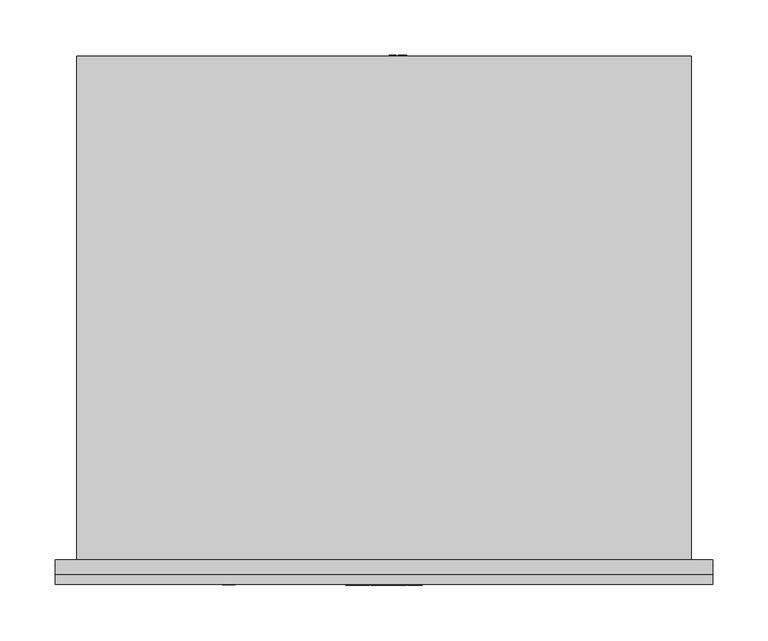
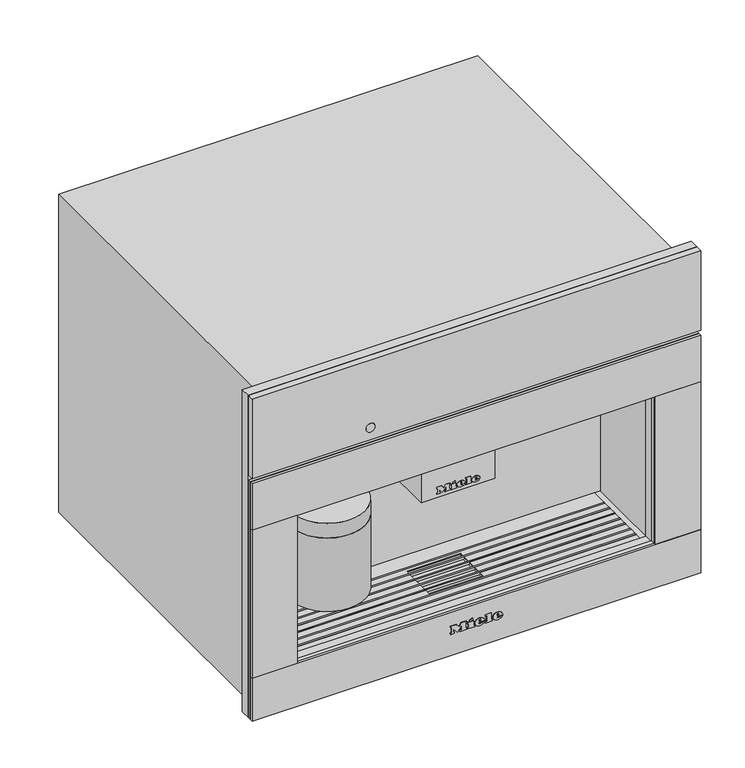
"""IFC4 building model written with IfcOpenShell, lengths in millimetres: proxy geometry, 11163900_EU1_CVA7440_OBSW : 29744020_EU1_11163900_CVA7440_OBSW."""

from ifc_helpers import new_model, si_unit, point, frame, frame_2d, origin, place, context, project, spatial, polyline, circle_curve, ellipse_curve, trimmed, segment, composite_curve, outline, extrude, faceted_brep, source, transform, mapped, element, save
from ifc_brep_helpers import plane_surface, cylinder_surface, revolved_surface, extruded_surface, advanced_brep


def specialty_equipment_a78401e0(model_context):
    return source(origin(), model_context, "Body", "SolidModel", [
        extrude(outline(composite_curve([segment(trimmed(circle_curve(frame_2d((-14.0, 36.5)), 5.0), [point((-9.0, 36.5))], [point((-19.0, 36.5))], False, "CARTESIAN"), True, "CONTINUOUS"), segment(trimmed(circle_curve(frame_2d((-14.0, 36.5)), 5.0), [point((-19.0, 36.5))], [point((-9.0, 36.5))], False, "CARTESIAN"), True, "CONTINUOUS")], self_intersect=False)), frame((0.0, 0.0, 193.0), z_axis=(0.0, 0.0, 1.0), x_axis=(1.0, 0.0, 0.0)), (0.0, 0.0, 1.0), 5.0),
        extrude(outline(composite_curve([segment(trimmed(circle_curve(frame_2d((14.0, 36.5)), 5.0), [point((19.0, 36.5))], [point((9.0, 36.5))], False, "CARTESIAN"), True, "CONTINUOUS"), segment(trimmed(circle_curve(frame_2d((14.0, 36.5)), 5.0), [point((9.0, 36.5))], [point((19.0, 36.5))], False, "CARTESIAN"), True, "CONTINUOUS")], self_intersect=False)), frame((0.0, 0.0, 193.0), z_axis=(0.0, 0.0, 1.0), x_axis=(1.0, 0.0, 0.0)), (0.0, 0.0, 1.0), 5.0),
        extrude(outline(composite_curve([segment(trimmed(circle_curve(frame_2d((-156.5, 49.5)), 50.0), [point((-106.5, 49.5))], [point((-206.5, 49.5))], False, "CARTESIAN"), True, "CONTINUOUS"), segment(trimmed(circle_curve(frame_2d((-156.5, 49.5)), 50.0), [point((-206.5, 49.5))], [point((-106.5, 49.5))], False, "CARTESIAN"), True, "CONTINUOUS")], self_intersect=False)), frame((0.0, 0.0, 100.0), z_axis=(0.0, 0.0, 1.0), x_axis=(1.0, 0.0, 0.0)), (0.0, 0.0, 1.0), 103.0),
        extrude(outline(polyline([(-49.0, 95.0), (49.0, 95.0), (49.0, 20.0), (-49.0, 20.0), (-49.0, 95.0)])), frame((0.0, 0.0, 198.0), z_axis=(0.0, 0.0, 1.0), x_axis=(1.0, 0.0, 0.0)), (0.0, 0.0, 1.0), 75.0),
        extrude(outline(polyline([(455.5, 297.5), (455.5, -297.5), (4.0, -297.5), (4.0, 297.5), (455.5, 297.5)]), holes=[polyline([(273.0, 237.5), (63.0, 237.5), (63.0, -237.5), (273.0, -237.5), (273.0, 237.5)])]), frame((0.0, -13.0, 0.0), z_axis=(0.0, 1.0, 0.0), x_axis=(0.0, 0.0, 1.0)), (0.0, 0.0, 1.0), 13.0),
        extrude(outline(polyline([(97.0, 11.140398), (107.045631, 11.140398), (107.045631, 9.8846941), (98.2557039, 9.8846941), (98.2557039, 4.8618786), (97.0, 4.8618786), (97.0, 11.140398)])), frame((0.0, 456.0, 0.0), z_axis=(0.0, 1.0, 0.0), x_axis=(0.0, 0.0, 1.0)), (0.0, 0.0, 1.0), 1.0),
        extrude(outline(polyline([(97.0, 20.4012141), (107.045631, 20.4012141), (107.045631, 13.1809168), (105.7899271, 13.1809168), (105.7899271, 19.1455102), (102.8076304, 19.1455102), (102.8076304, 13.4948427), (101.5519266, 13.4948427), (101.5519266, 19.1455102), (98.2557039, 19.1455102), (98.2557039, 13.0239538), (97.0, 13.0239538), (97.0, 20.4012141)])), frame((0.0, 456.0, 0.0), z_axis=(0.0, 1.0, 0.0), x_axis=(0.0, 0.0, 1.0)), (0.0, 0.0, 1.0), 1.0),
        advanced_brep(
        [(55.0, 425.5, 102.0), (55.0, 410.5, 102.0), (5.5239538, 410.5, 102.0), (20.5239538, 425.5, 102.0), (20.5239538, 456.0, 102.0), (5.5239538, 456.0, 102.0)],
        [
            (0, 1, circle_curve(frame((55.0, 418.0, 102.0), z_axis=(-1.0, 0.0, 0.0), x_axis=(0.0, -1.0, 0.0)), 7.5)),
            (1, 2),
            (2, 3, ellipse_curve(frame((13.0239538, 418.0, 102.0), z_axis=(0.7071067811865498, -0.7071067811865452, 0.0), x_axis=(0.7071067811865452, 0.7071067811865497, 0.0)), 10.6066017, 7.5)),
            (3, 0),
            (2, 3, ellipse_curve(frame((13.0239538, 418.0, 102.0), z_axis=(-0.7071067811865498, 0.7071067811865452, 0.0), x_axis=(-0.7071067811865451, -0.7071067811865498, 0.0)), 10.6066017, 7.5)),
            (3, 4),
            (4, 5, circle_curve(frame((13.0239538, 456.0, 102.0), z_axis=(0.0, -1.0, 0.0), x_axis=(-1.0, 0.0, 0.0)), 7.5)),
            (5, 2),
            (0, 1, circle_curve(frame((55.0, 418.0, 102.0), z_axis=(1.0, 0.0, 0.0), x_axis=(0.0, -1.0, 0.0)), 7.5)),
            (4, 5, circle_curve(frame((13.0239538, 456.0, 102.0), z_axis=(0.0, 1.0, 0.0), x_axis=(-1.0, 0.0, 0.0)), 7.5)),
        ],
        [
            cylinder_surface(frame((55.0, 418.0, 102.0), z_axis=(1.0, 0.0, 0.0), x_axis=(0.0, -1.0, 0.0)), 7.5),
            cylinder_surface(frame((13.0239538, 418.0, 102.0), z_axis=(0.0, -1.0, 0.0), x_axis=(-1.0, 0.0, 0.0)), 7.5),
            plane_surface(frame((55.0, 418.0, 102.0), z_axis=(1.0, 0.0, 0.0), x_axis=(0.0, 0.0, 1.0))),
            plane_surface(frame((13.0239538, 456.0, 102.0), z_axis=(0.0, 1.0, 0.0), x_axis=(0.0, 0.0, 1.0))),
        ],
        [
            (0, [[1, 2, 3, 4]]),
            (1, [[5, 6, 7, 8]]),
            (2, [[9, -1]]),
            (0, [[-9, -4, -5, -2]]),
            (3, [[10, -7]]),
            (1, [[-3, -8, -10, -6]]),
        ],
    ),
        advanced_brep(
        [(-106.5, 49.5, 203.0), (-206.5, 49.5, 203.0), (-156.5, 49.5, 203.0), (-106.5, 49.5, 223.5), (-206.5, 49.5, 223.5), (-110.0, 49.5, 252.0), (-203.0, 49.5, 252.0), (-110.0, 49.5, 273.0), (-203.0, 49.5, 273.0), (-156.5, 49.5, 273.0)],
        [
            (0, 1, circle_curve(frame((-156.5, 49.5, 203.0), z_axis=(0.0, 0.0, -1.0), x_axis=(-1.0, 0.0, 0.0)), 50.0)),
            (1, 2),
            (2, 0),
            (1, 0, circle_curve(frame((-156.5, 49.5, 203.0), z_axis=(0.0, 0.0, -1.0), x_axis=(-1.0, 0.0, 0.0)), 50.0)),
            (3, 4, circle_curve(frame((-156.5, 49.5, 223.5), z_axis=(0.0, 0.0, -1.0), x_axis=(-1.0, 0.0, 0.0)), 50.0)),
            (4, 1),
            (0, 3),
            (4, 3, circle_curve(frame((-156.5, 49.5, 223.5), z_axis=(0.0, 0.0, -1.0), x_axis=(-1.0, 0.0, 0.0)), 50.0)),
            (5, 6, circle_curve(frame((-156.5, 49.5, 252.0), z_axis=(0.0, 0.0, -1.0), x_axis=(-1.0, 0.0, 0.0)), 46.5)),
            (6, 4, circle_curve(frame((-206.7961166, 49.5, 238.0012775), z_axis=(0.0, 1.0, 0.0), x_axis=(-1.0, 0.0, 0.0)), 14.5043005)),
            (3, 5, circle_curve(frame((-106.2038834, 49.5, 238.0012775), z_axis=(0.0, 1.0, 0.0), x_axis=(1.0, 0.0, 0.0)), 14.5043005)),
            (6, 5, circle_curve(frame((-156.5, 49.5, 252.0), z_axis=(0.0, 0.0, -1.0), x_axis=(-1.0, 0.0, 0.0)), 46.5)),
            (7, 8, circle_curve(frame((-156.5, 49.5, 273.0), z_axis=(0.0, 0.0, -1.0), x_axis=(-1.0, 0.0, 0.0)), 46.5)),
            (8, 6),
            (5, 7),
            (8, 7, circle_curve(frame((-156.5, 49.5, 273.0), z_axis=(0.0, 0.0, -1.0), x_axis=(-1.0, 0.0, 0.0)), 46.5)),
            (9, 8),
            (7, 9),
        ],
        [
            plane_surface(frame((-156.5, 49.5, 203.0), z_axis=(0.0, 0.0, -1.0), x_axis=(-1.0, 0.0, 0.0))),
            cylinder_surface(frame((-156.5, 49.5, 388.7361736), z_axis=(0.0, 0.0, 1.0), x_axis=(-1.0, 0.0, 0.0)), 50.0),
            revolved_surface(trimmed(ellipse_curve(frame((-206.7961166, 49.5, 238.0012775), z_axis=(0.0, -1.0, 0.0), x_axis=(-1.0, 0.0, 0.0)), 14.5043005, 14.5043005), [point((-206.5, 49.5, 223.5))], [point((-203.0, 49.5, 252.0))], True, "CARTESIAN"), (-156.5, 49.5, 388.7361736), (0.0, 0.0, 1.0)),
            cylinder_surface(frame((-156.5, 49.5, 388.7361736), z_axis=(0.0, 0.0, 1.0), x_axis=(-1.0, 0.0, 0.0)), 46.5),
            plane_surface(frame((-156.5, 49.5, 273.0), z_axis=(0.0, 0.0, 1.0), x_axis=(-1.0, 0.0, 0.0))),
        ],
        [
            (0, [[1, 2, 3]]),
            (0, [[4, -3, -2]]),
            (1, [[5, 6, -1, 7]]),
            (1, [[8, -7, -4, -6]]),
            (2, [[9, 10, -5, 11]]),
            (2, [[12, -11, -8, -10]]),
            (3, [[13, 14, -9, 15]]),
            (3, [[16, -15, -12, -14]]),
            (4, [[17, -13, 18]]),
            (4, [[-18, -16, -17]]),
        ],
    ),
        faceted_brep([(229.5, 0.0, 62.0), (-229.5, 0.0, 62.0), (-229.5, 8.0, 62.0), (229.5, 8.0, 62.0), (-229.5, 104.5, 62.0), (229.5, 104.5, 62.0), (229.5, 82.0925571, 62.0), (-229.5, 82.0925571, 62.0), (36.0, 76.0, 62.0), (-36.0, 76.0, 62.0), (-36.0, 70.0550731, 62.0), (-229.5, 70.0550731, 62.0), (-229.5, 80.0925571, 62.0), (229.5, 80.0925571, 62.0), (229.5, 70.0550731, 62.0), (36.0, 70.0550731, 62.0), (-36.0, 25.0, 62.0), (36.0, 25.0, 62.0), (36.0, 31.9426212, 62.0), (229.5, 31.9426212, 62.0), (229.5, 21.9776522, 62.0), (-229.5, 21.9776522, 62.0), (-229.5, 31.9426212, 62.0), (-36.0, 31.9426212, 62.0), (229.5, 19.9776522, 62.0), (229.5, 10.0, 62.0), (-229.5, 10.0, 62.0), (-229.5, 19.9776522, 62.0), (229.5, 43.9801052, 62.0), (229.5, 33.9426212, 62.0), (36.0, 33.9426212, 62.0), (36.0, 43.9801052, 62.0), (229.5, 56.0175891, 62.0), (229.5, 45.9801052, 62.0), (36.0, 45.9801052, 62.0), (36.0, 56.0175891, 62.0), (229.5, 68.0550731, 62.0), (229.5, 58.0175891, 62.0), (36.0, 58.0175891, 62.0), (36.0, 68.0550731, 62.0), (-229.5, 33.9426212, 62.0), (-229.5, 43.9801052, 62.0), (-36.0, 43.9801052, 62.0), (-36.0, 33.9426212, 62.0), (-229.5, 45.9801052, 62.0), (-229.5, 56.0175891, 62.0), (-36.0, 56.0175891, 62.0), (-36.0, 45.9801052, 62.0), (-229.5, 58.0175891, 62.0), (-229.5, 68.0550731, 62.0), (-36.0, 68.0550731, 62.0), (-36.0, 58.0175891, 62.0), (229.5, 104.5, 63.0), (-229.5, 104.5, 63.0), (-229.5, 82.0925571, 63.0), (229.5, 82.0925571, 63.0), (-229.5, 0.0, 63.0), (229.5, 0.0, 63.0), (229.5, 8.0, 63.0), (-229.5, 8.0, 63.0), (-36.0, 76.0, 63.0), (36.0, 76.0, 63.0), (36.0, 70.0550731, 63.0), (229.5, 70.0550731, 63.0), (229.5, 80.0925571, 63.0), (-229.5, 80.0925571, 63.0), (-229.5, 70.0550731, 63.0), (-36.0, 70.0550731, 63.0), (36.0, 25.0, 63.0), (-36.0, 25.0, 63.0), (-36.0, 31.9426212, 63.0), (-229.5, 31.9426212, 63.0), (-229.5, 21.9776522, 63.0), (229.5, 21.9776522, 63.0), (229.5, 31.9426212, 63.0), (36.0, 31.9426212, 63.0), (-229.5, 19.9776522, 63.0), (-229.5, 10.0, 63.0), (229.5, 10.0, 63.0), (229.5, 19.9776522, 63.0), (-229.5, 43.9801052, 63.0), (-229.5, 33.9426212, 63.0), (-36.0, 33.9426212, 63.0), (-36.0, 43.9801052, 63.0), (-229.5, 56.0175891, 63.0), (-229.5, 45.9801052, 63.0), (-36.0, 45.9801052, 63.0), (-36.0, 56.0175891, 63.0), (-229.5, 68.0550731, 63.0), (-229.5, 58.0175891, 63.0), (-36.0, 58.0175891, 63.0), (-36.0, 68.0550731, 63.0), (229.5, 33.9426212, 63.0), (229.5, 43.9801052, 63.0), (36.0, 43.9801052, 63.0), (36.0, 33.9426212, 63.0), (229.5, 45.9801052, 63.0), (229.5, 56.0175891, 63.0), (36.0, 56.0175891, 63.0), (36.0, 45.9801052, 63.0), (229.5, 58.0175891, 63.0), (229.5, 68.0550731, 63.0), (36.0, 68.0550731, 63.0), (36.0, 58.0175891, 63.0), (-229.5, 82.0925571, 60.0), (-229.5, 80.0925571, 60.0), (-229.5, 70.0550731, 60.0), (-229.5, 68.0550731, 60.0), (-229.5, 58.0175891, 60.0), (-229.5, 56.0175891, 60.0), (-229.5, 45.9801052, 60.0), (-229.5, 43.9801052, 60.0), (-229.5, 33.9426212, 60.0), (-229.5, 31.9426212, 60.0), (-229.5, 21.9776522, 60.0), (-229.5, 19.9776522, 60.0), (-229.5, 10.0, 60.0), (-229.5, 8.0, 60.0), (-229.5, 8.0, 63.5), (-229.5, 10.0, 63.5), (-229.5, 19.9776522, 63.5), (-229.5, 21.9776522, 63.5), (-229.5, 31.9426212, 63.5), (-229.5, 33.9426212, 63.5), (-229.5, 43.9801052, 63.5), (-229.5, 45.9801052, 63.5), (-229.5, 56.0175891, 63.5), (-229.5, 58.0175891, 63.5), (-229.5, 68.0550731, 63.5), (-229.5, 70.0550731, 63.5), (-229.5, 80.0925571, 63.5), (-229.5, 82.0925571, 63.5), (229.5, 82.0925571, 63.5), (229.5, 80.0925571, 63.5), (229.5, 70.0550731, 63.5), (229.5, 68.0550731, 63.5), (229.5, 58.0175891, 63.5), (229.5, 56.0175891, 63.5), (229.5, 45.9801052, 63.5), (229.5, 43.9801052, 63.5), (229.5, 33.9426212, 63.5), (229.5, 31.9426212, 63.5), (229.5, 21.9776522, 63.5), (229.5, 19.9776522, 63.5), (229.5, 10.0, 63.5), (229.5, 8.0, 63.5), (229.5, 8.0, 60.0), (229.5, 10.0, 60.0), (229.5, 19.9776522, 60.0), (229.5, 21.9776522, 60.0), (229.5, 31.9426212, 60.0), (229.5, 33.9426212, 60.0), (229.5, 43.9801052, 60.0), (229.5, 45.9801052, 60.0), (229.5, 56.0175891, 60.0), (229.5, 58.0175891, 60.0), (229.5, 68.0550731, 60.0), (229.5, 70.0550731, 60.0), (229.5, 80.0925571, 60.0), (229.5, 82.0925571, 60.0)], [[[0, 1, 2, 3]], [[4, 5, 6, 7]], [[8, 9, 10, 11, 12, 13, 14, 15]], [[16, 17, 18, 19, 20, 21, 22, 23]], [[24, 25, 26, 27]], [[28, 29, 30, 31]], [[32, 33, 34, 35]], [[36, 37, 38, 39]], [[40, 41, 42, 43]], [[44, 45, 46, 47]], [[48, 49, 50, 51]], [[52, 53, 54, 55]], [[56, 57, 58, 59]], [[60, 61, 62, 63, 64, 65, 66, 67]], [[68, 69, 70, 71, 72, 73, 74, 75]], [[76, 77, 78, 79]], [[80, 81, 82, 83]], [[84, 85, 86, 87]], [[88, 89, 90, 91]], [[92, 93, 94, 95]], [[96, 97, 98, 99]], [[100, 101, 102, 103]], [[5, 4, 53, 52]], [[53, 4, 7, 104, 105, 12, 11, 106, 107, 49, 48, 108, 109, 45, 44, 110, 111, 41, 40, 112, 113, 22, 21, 114, 115, 27, 26, 116, 117, 2, 1, 56, 59, 118, 119, 77, 76, 120, 121, 72, 71, 122, 123, 81, 80, 124, 125, 85, 84, 126, 127, 89, 88, 128, 129, 66, 65, 130, 131, 54]], [[1, 0, 57, 56]], [[5, 52, 55, 132, 133, 64, 63, 134, 135, 101, 100, 136, 137, 97, 96, 138, 139, 93, 92, 140, 141, 74, 73, 142, 143, 79, 78, 144, 145, 58, 57, 0, 3, 146, 147, 25, 24, 148, 149, 20, 19, 150, 151, 29, 28, 152, 153, 33, 32, 154, 155, 37, 36, 156, 157, 14, 13, 158, 159, 6]], [[8, 61, 60, 9]], [[43, 42, 83, 82]], [[47, 46, 87, 86]], [[51, 50, 91, 90]], [[9, 60, 67, 10]], [[69, 16, 23, 70]], [[16, 69, 68, 17]], [[31, 30, 95, 94]], [[35, 34, 99, 98]], [[39, 38, 103, 102]], [[61, 8, 15, 62]], [[17, 68, 75, 18]], [[147, 146, 117, 116]], [[149, 148, 115, 114]], [[151, 150, 113, 112]], [[153, 152, 111, 110]], [[155, 154, 109, 108]], [[157, 156, 107, 106]], [[159, 158, 105, 104]], [[144, 119, 118, 145]], [[142, 121, 120, 143]], [[140, 123, 122, 141]], [[138, 125, 124, 139]], [[136, 127, 126, 137]], [[134, 129, 128, 135]], [[132, 131, 130, 133]], [[147, 116, 26, 25]], [[119, 144, 78, 77]], [[117, 146, 3, 2]], [[145, 118, 59, 58]], [[149, 114, 21, 20]], [[121, 142, 73, 72]], [[115, 148, 24, 27]], [[143, 120, 76, 79]], [[151, 112, 40, 43, 82, 81, 123, 140, 92, 95, 30, 29]], [[113, 150, 19, 18, 75, 74, 141, 122, 71, 70, 23, 22]], [[153, 110, 44, 47, 86, 85, 125, 138, 96, 99, 34, 33]], [[111, 152, 28, 31, 94, 93, 139, 124, 80, 83, 42, 41]], [[155, 108, 48, 51, 90, 89, 127, 136, 100, 103, 38, 37]], [[109, 154, 32, 35, 98, 97, 137, 126, 84, 87, 46, 45]], [[157, 106, 11, 10, 67, 66, 129, 134, 63, 62, 15, 14]], [[107, 156, 36, 39, 102, 101, 135, 128, 88, 91, 50, 49]], [[159, 104, 7, 6]], [[131, 132, 55, 54]], [[105, 158, 13, 12]], [[133, 130, 65, 64]]]),
        faceted_brep([(-278.0, 456.0, 0.0), (-278.0, 0.0, 0.0), (-278.0, 0.0, 446.0), (-278.0, 456.0, 446.0), (278.0, 456.0, 0.0), (278.0, 456.0, 446.0), (278.0, 0.0, 446.0), (278.0, 0.0, 0.0), (55.0, 456.0, 133.0), (-22.0, 456.0, 133.0), (-22.0, 456.0, 89.0), (35.0, 456.0, 66.0), (55.0, 456.0, 66.0), (237.5, 0.0, 273.0), (237.5, 0.0, 63.0), (229.5, 0.0, 63.0), (229.5, 0.0, 62.0), (-229.5, 0.0, 62.0), (-229.5, 0.0, 63.0), (-237.5, 0.0, 63.0), (-237.5, 0.0, 273.0), (237.5, 104.5, 273.0), (-237.5, 104.5, 273.0), (-237.5, 104.5, 63.0), (-229.5, 104.5, 63.0), (-229.5, 104.5, 62.0), (229.5, 104.5, 62.0), (229.5, 104.5, 63.0), (237.5, 104.5, 63.0), (-36.0, 76.0, 62.0), (36.0, 76.0, 62.0), (36.0, 25.0, 62.0), (-36.0, 25.0, 62.0), (36.0, 76.0, 58.0), (-36.0, 76.0, 58.0), (-36.0, 25.0, 58.0), (36.0, 25.0, 58.0), (-22.0, 400.0, 133.0), (55.0, 400.0, 133.0), (55.0, 400.0, 66.0), (35.0, 400.0, 66.0), (-22.0, 400.0, 89.0)], [[[0, 1, 2, 3]], [[4, 5, 6, 7]], [[0, 3, 5, 4], [8, 9, 10, 11, 12]], [[3, 2, 6, 5]], [[2, 1, 7, 6], [13, 14, 15, 16, 17, 18, 19, 20]], [[1, 0, 4, 7]], [[21, 22, 23, 24, 25, 26, 27, 28]], [[21, 28, 14, 13]], [[14, 28, 27, 15]], [[23, 19, 18, 24]], [[23, 22, 20, 19]], [[22, 21, 13, 20]], [[26, 25, 17, 16], [29, 30, 31, 32]], [[17, 25, 24, 18]], [[26, 16, 15, 27]], [[33, 34, 35, 36]], [[34, 33, 30, 29]], [[35, 34, 29, 32]], [[36, 35, 32, 31]], [[33, 36, 31, 30]], [[37, 38, 39, 40, 41]], [[38, 37, 9, 8]], [[39, 38, 8, 12]], [[40, 39, 12, 11]], [[41, 40, 11, 10]], [[37, 41, 10, 9]]]),
        advanced_brep(
        [(27.088, -23.0, 36.7018), (27.088, -23.0, 37.8532), (34.7146, -23.0, 37.8532), (21.445, -23.0, 37.8532), (24.58, -23.0, 34.0), (34.5208, -23.0, 36.7018), (31.078, -23.0, 36.7018), (28.3648, -23.0, 35.425), (27.088, -23.0, 39.3124), (27.088, -23.0, 40.555), (29.0374, -23.0, 40.555), (29.0374, -23.0, 39.3124), (27.088, -22.0, 36.7018), (28.3648, -22.0, 35.425), (31.078, -22.0, 36.7018), (34.5208, -22.0, 36.7018), (24.58, -22.0, 34.0), (21.445, -22.0, 37.8532), (34.7146, -22.0, 37.8532), (27.088, -22.0, 37.8532), (27.088, -22.0, 39.3124), (29.0374, -22.0, 39.3124), (29.0374, -22.0, 40.555), (27.088, -22.0, 40.555)],
        [
            (0, 1),
            (1, 2),
            (2, 3, ellipse_curve(frame((28.0798, -23.0, 37.8532), z_axis=(0.0, -1.0, 0.0), x_axis=(-1.0, 0.0, 0.0)), 6.6348, 5.4834)),
            (3, 4, circle_curve(frame((25.8568622, -23.0, 38.2408), z_axis=(0.0, -1.0, 0.0), x_axis=(0.0, 0.0, -1.0)), 4.4288556)),
            (4, 5, circle_curve(frame((27.9469808, -23.0, 41.2504), z_axis=(0.0, -1.0, 0.0), x_axis=(0.0, 0.0, -1.0)), 7.9940516)),
            (5, 6),
            (6, 7, circle_curve(frame((28.9220588, -23.0, 37.762), z_axis=(0.0, 1.0, 0.0), x_axis=(0.0, 0.0, -1.0)), 2.4025208)),
            (7, 0, circle_curve(frame((28.3648, -23.0, 36.7018), z_axis=(0.0, 1.0, 0.0), x_axis=(0.0, 0.0, -1.0)), 1.2768)),
            (8, 9),
            (9, 10, circle_curve(frame((28.0627, -23.0, 40.555), z_axis=(0.0, 1.0, 0.0), x_axis=(0.0, 0.0, -1.0)), 0.9747)),
            (10, 11),
            (11, 8),
            (12, 13, circle_curve(frame((28.3648, -22.0, 36.7018), z_axis=(0.0, -1.0, 0.0), x_axis=(0.0, 0.0, -1.0)), 1.2768)),
            (13, 14, circle_curve(frame((28.9220588, -22.0, 37.762), z_axis=(0.0, -1.0, 0.0), x_axis=(0.0, 0.0, -1.0)), 2.4025208)),
            (14, 15),
            (15, 16, circle_curve(frame((27.9469808, -22.0, 41.2504), z_axis=(0.0, 1.0, 0.0), x_axis=(0.0, 0.0, -1.0)), 7.9940516)),
            (16, 17, circle_curve(frame((25.8568622, -22.0, 38.2408), z_axis=(0.0, 1.0, 0.0), x_axis=(0.0, 0.0, -1.0)), 4.4288556)),
            (17, 18, ellipse_curve(frame((28.0798, -22.0, 37.8532), z_axis=(0.0, 1.0, 0.0), x_axis=(-1.0, 0.0, 0.0)), 6.6348, 5.4834)),
            (18, 19),
            (19, 12),
            (20, 21),
            (21, 22),
            (22, 23, circle_curve(frame((28.0627, -22.0, 40.555), z_axis=(0.0, -1.0, 0.0), x_axis=(0.0, 0.0, -1.0)), 0.9747)),
            (23, 20),
            (0, 12),
            (19, 1),
            (18, 2),
            (5, 15),
            (14, 6),
            (17, 3),
            (13, 7),
            (16, 4),
            (8, 20),
            (23, 9),
            (22, 10),
            (21, 11),
        ],
        [
            plane_surface(frame((27.088, -23.0, 37.8532), z_axis=(0.0, -1.0, 0.0), x_axis=(0.0, 0.0, 1.0))),
            plane_surface(frame((27.088, -22.0, 37.8532), z_axis=(0.0, 1.0, 0.0), x_axis=(0.0, 0.0, -1.0))),
            plane_surface(frame((27.088, -23.0, 36.7018), z_axis=(1.0, 0.0, 0.0), x_axis=(0.0, 1.0, 0.0))),
            plane_surface(frame((27.088, -23.0, 37.8532), z_axis=(0.0, 0.0, -1.0), x_axis=(0.0, 1.0, 0.0))),
            plane_surface(frame((34.5208, -23.0, 36.7018), z_axis=(0.0, 0.0, 1.0), x_axis=(0.0, 1.0, 0.0))),
            extruded_surface(trimmed(ellipse_curve(frame((28.0798, -21.0, 37.8532), z_axis=(0.0, -1.0, 0.0), x_axis=(-1.0, 0.0, 0.0)), 6.6348, 5.4834), [point((34.7146, -21.0, 37.8532))], [point((21.445, -21.0, 37.8532))], True, "CARTESIAN"), (0.0, -1.0, 0.0), 1.0),
            revolved_surface(polyline([(28.9220588, -22.0, 35.3594792), (28.9220588, -23.0, 35.3594792)]), (28.9220588, -22.0, 37.762), (0.0, 1.0, 0.0)),
            revolved_surface(polyline([(28.3648, -22.0, 35.425), (28.3648, -23.0, 35.425)]), (28.3648, -22.0, 36.7018), (0.0, 1.0, 0.0)),
            cylinder_surface(frame((25.8568622, -22.0, 38.2408), z_axis=(0.0, -1.0, 0.0), x_axis=(0.0, 0.0, -1.0)), 4.4288556),
            cylinder_surface(frame((27.9469808, -22.0, 41.2504), z_axis=(0.0, -1.0, 0.0), x_axis=(0.0, 0.0, -1.0)), 7.9940516),
            plane_surface(frame((27.088, -23.0, 39.3124), z_axis=(1.0, 0.0, 0.0), x_axis=(0.0, 1.0, 0.0))),
            revolved_surface(polyline([(28.0627, -22.0, 39.5803), (28.0627, -23.0, 39.5803)]), (28.0627, -22.0, 40.555), (0.0, 1.0, 0.0)),
            plane_surface(frame((29.0374, -23.0, 40.555), z_axis=(-1.0, 0.0, 0.0), x_axis=(0.0, 1.0, 0.0))),
            plane_surface(frame((29.0374, -23.0, 39.3124), z_axis=(0.0, 0.0, 1.0), x_axis=(0.0, 1.0, 0.0))),
        ],
        [
            (0, [[1, 2, 3, 4, 5, 6, 7, 8], [9, 10, 11, 12]]),
            (1, [[13, 14, 15, 16, 17, 18, 19, 20], [21, 22, 23, 24]]),
            (2, [[-1, 25, -20, 26]]),
            (3, [[-2, -26, -19, 27]]),
            (4, [[-6, 28, -15, 29]]),
            (5, [[-3, -27, -18, 30]]),
            (6, [[-7, -29, -14, 31]]),
            (7, [[-8, -31, -13, -25]]),
            (8, [[-4, -30, -17, 32]]),
            (9, [[-5, -32, -16, -28]]),
            (10, [[-9, 33, -24, 34]]),
            (11, [[-10, -34, -23, 35]]),
            (12, [[-11, -35, -22, 36]]),
            (13, [[-12, -36, -21, -33]]),
        ],
    ),
        advanced_brep(
        [(3.2962, -23.0, 36.7018), (3.2962, -23.0, 37.8532), (10.9228, -23.0, 37.8532), (-2.3468, -23.0, 37.8532), (0.7882, -23.0, 34.0), (10.729, -23.0, 36.7018), (7.2862, -23.0, 36.7018), (4.573, -23.0, 35.425), (3.2962, -23.0, 39.3124), (3.2962, -23.0, 40.555), (5.2456, -23.0, 40.555), (5.2456, -23.0, 39.3124), (3.2962, -22.0, 36.7018), (4.573, -22.0, 35.425), (7.2862, -22.0, 36.7018), (10.729, -22.0, 36.7018), (0.7882, -22.0, 34.0), (-2.3468, -22.0, 37.8532), (10.9228, -22.0, 37.8532), (3.2962, -22.0, 37.8532), (3.2962, -22.0, 39.3124), (5.2456, -22.0, 39.3124), (5.2456, -22.0, 40.555), (3.2962, -22.0, 40.555)],
        [
            (0, 1),
            (1, 2),
            (2, 3, ellipse_curve(frame((4.288, -23.0, 37.8532), z_axis=(0.0, -1.0, 0.0), x_axis=(-1.0, 0.0, 0.0)), 6.6348, 5.4834)),
            (3, 4, circle_curve(frame((2.0650622, -23.0, 38.2408), z_axis=(0.0, -1.0, 0.0), x_axis=(0.0, 0.0, -1.0)), 4.4288556)),
            (4, 5, circle_curve(frame((4.1551808, -23.0, 41.2504), z_axis=(0.0, -1.0, 0.0), x_axis=(0.0, 0.0, -1.0)), 7.9940516)),
            (5, 6),
            (6, 7, circle_curve(frame((5.1302588, -23.0, 37.762), z_axis=(0.0, 1.0, 0.0), x_axis=(0.0, 0.0, -1.0)), 2.4025208)),
            (7, 0, circle_curve(frame((4.573, -23.0, 36.7018), z_axis=(0.0, 1.0, 0.0), x_axis=(0.0, 0.0, -1.0)), 1.2768)),
            (8, 9),
            (9, 10, circle_curve(frame((4.2709, -23.0, 40.555), z_axis=(0.0, 1.0, 0.0), x_axis=(0.0, 0.0, -1.0)), 0.9747)),
            (10, 11),
            (11, 8),
            (12, 13, circle_curve(frame((4.573, -22.0, 36.7018), z_axis=(0.0, -1.0, 0.0), x_axis=(0.0, 0.0, -1.0)), 1.2768)),
            (13, 14, circle_curve(frame((5.1302588, -22.0, 37.762), z_axis=(0.0, -1.0, 0.0), x_axis=(0.0, 0.0, -1.0)), 2.4025208)),
            (14, 15),
            (15, 16, circle_curve(frame((4.1551808, -22.0, 41.2504), z_axis=(0.0, 1.0, 0.0), x_axis=(0.0, 0.0, -1.0)), 7.9940516)),
            (16, 17, circle_curve(frame((2.0650622, -22.0, 38.2408), z_axis=(0.0, 1.0, 0.0), x_axis=(0.0, 0.0, -1.0)), 4.4288556)),
            (17, 18, ellipse_curve(frame((4.288, -22.0, 37.8532), z_axis=(0.0, 1.0, 0.0), x_axis=(-1.0, 0.0, 0.0)), 6.6348, 5.4834)),
            (18, 19),
            (19, 12),
            (20, 21),
            (21, 22),
            (22, 23, circle_curve(frame((4.2709, -22.0, 40.555), z_axis=(0.0, -1.0, 0.0), x_axis=(0.0, 0.0, -1.0)), 0.9747)),
            (23, 20),
            (0, 12),
            (19, 1),
            (18, 2),
            (5, 15),
            (14, 6),
            (17, 3),
            (13, 7),
            (16, 4),
            (8, 20),
            (23, 9),
            (22, 10),
            (21, 11),
        ],
        [
            plane_surface(frame((3.2962, -23.0, 37.8532), z_axis=(0.0, -1.0, 0.0), x_axis=(0.0, 0.0, 1.0))),
            plane_surface(frame((3.2962, -22.0, 37.8532), z_axis=(0.0, 1.0, 0.0), x_axis=(0.0, 0.0, -1.0))),
            plane_surface(frame((3.2962, -23.0, 36.7018), z_axis=(1.0, 0.0, 0.0), x_axis=(0.0, 1.0, 0.0))),
            plane_surface(frame((3.2962, -23.0, 37.8532), z_axis=(0.0, 0.0, -1.0), x_axis=(0.0, 1.0, 0.0))),
            plane_surface(frame((10.729, -23.0, 36.7018), z_axis=(0.0, 0.0, 1.0), x_axis=(0.0, 1.0, 0.0))),
            extruded_surface(trimmed(ellipse_curve(frame((4.288, -21.0, 37.8532), z_axis=(0.0, -1.0, 0.0), x_axis=(-1.0, 0.0, 0.0)), 6.6348, 5.4834), [point((10.9228, -21.0, 37.8532))], [point((-2.3468, -21.0, 37.8532))], True, "CARTESIAN"), (0.0, -1.0, 0.0), 1.0),
            revolved_surface(polyline([(5.1302588, -22.0, 35.3594792), (5.1302588, -23.0, 35.3594792)]), (5.1302588, -22.0, 37.762), (0.0, 1.0, 0.0)),
            revolved_surface(polyline([(4.573, -22.0, 35.425), (4.573, -23.0, 35.425)]), (4.573, -22.0, 36.7018), (0.0, 1.0, 0.0)),
            cylinder_surface(frame((2.0650622, -22.0, 38.2408), z_axis=(0.0, -1.0, 0.0), x_axis=(0.0, 0.0, -1.0)), 4.4288556),
            cylinder_surface(frame((4.1551808, -22.0, 41.2504), z_axis=(0.0, -1.0, 0.0), x_axis=(0.0, 0.0, -1.0)), 7.9940516),
            plane_surface(frame((3.2962, -23.0, 39.3124), z_axis=(1.0, 0.0, 0.0), x_axis=(0.0, 1.0, 0.0))),
            revolved_surface(polyline([(4.2709, -22.0, 39.5803), (4.2709, -23.0, 39.5803)]), (4.2709, -22.0, 40.555), (0.0, 1.0, 0.0)),
            plane_surface(frame((5.2456, -23.0, 40.555), z_axis=(-1.0, 0.0, 0.0), x_axis=(0.0, 1.0, 0.0))),
            plane_surface(frame((5.2456, -23.0, 39.3124), z_axis=(0.0, 0.0, 1.0), x_axis=(0.0, 1.0, 0.0))),
        ],
        [
            (0, [[1, 2, 3, 4, 5, 6, 7, 8], [9, 10, 11, 12]]),
            (1, [[13, 14, 15, 16, 17, 18, 19, 20], [21, 22, 23, 24]]),
            (2, [[-1, 25, -20, 26]]),
            (3, [[-2, -26, -19, 27]]),
            (4, [[-6, 28, -15, 29]]),
            (5, [[-3, -27, -18, 30]]),
            (6, [[-7, -29, -14, 31]]),
            (7, [[-8, -31, -13, -25]]),
            (8, [[-4, -30, -17, 32]]),
            (9, [[-5, -32, -16, -28]]),
            (10, [[-9, 33, -24, 34]]),
            (11, [[-10, -34, -23, 35]]),
            (12, [[-11, -35, -22, 36]]),
            (13, [[-12, -36, -21, -33]]),
        ],
    ),
        extrude(outline(polyline([(44.7274, -9.164), (42.8806, -8.2976), (44.6818, -4.433), (46.5286, -5.288), (44.7274, -9.164)])), frame((0.0, -23.0, 0.0), z_axis=(0.0, 1.0, 0.0), x_axis=(0.0, 0.0, 1.0)), (0.0, 0.0, 1.0), 1.0),
        extrude(outline(polyline([(42.6298, -11.9798), (40.5892, -11.9798), (40.5892, -10.6232), (35.9152, -10.6232), (35.9152, -11.9798), (34.0, -11.9798), (34.0, -2.9852), (35.9152, -2.9852), (35.9152, -4.3076), (42.6298, -4.3076), (42.6298, -11.9798)])), frame((0.0, -23.0, 0.0), z_axis=(0.0, 1.0, 0.0), x_axis=(0.0, 0.0, 1.0)), (0.0, 0.0, 1.0), 1.0),
        extrude(outline(polyline([(43.5418, 11.5612), (43.5418, 12.9292), (35.9152, 12.9292), (35.9152, 11.5612), (34.0, 11.5612), (34.0, 20.8066), (35.9152, 20.8066), (35.9152, 19.4044), (45.4, 19.4044), (45.4, 11.5612), (43.5418, 11.5612)])), frame((0.0, -23.0, 0.0), z_axis=(0.0, 1.0, 0.0), x_axis=(0.0, 0.0, 1.0)), (0.0, 0.0, 1.0), 1.0),
        extrude(outline(polyline([(43.5418, -34.7), (43.5418, -33.3206), (35.9152, -33.3206), (35.9152, -34.7), (34.0, -34.7), (34.0, -29.684), (35.9152, -29.684), (35.9152, -31.052), (40.7429247, -31.052), (34.0, -25.9562), (40.9402223, -20.8376), (35.9152, -20.8376), (35.9152, -22.2398), (34.0, -22.2398), (34.0, -13.1426), (35.9152, -13.1426), (35.9152, -14.5904), (43.5418, -14.5904), (43.5418, -13.1426), (45.4, -13.1426), (45.4, -20.0852), (41.125, -23.414), (45.4, -26.7542), (45.4, -34.7), (43.5418, -34.7)])), frame((0.0, -23.0, 0.0), z_axis=(0.0, 1.0, 0.0), x_axis=(0.0, 0.0, 1.0)), (0.0, 0.0, 1.0), 1.0),
        advanced_brep(
        [(22.348, 19.0, 205.5278), (22.348, 19.0, 206.4772), (28.6366, 19.0, 206.4772), (17.695, 19.0, 206.4772), (20.28, 19.0, 203.3), (28.4768, 19.0, 205.5278), (25.638, 19.0, 205.5278), (23.4008, 19.0, 204.475), (22.348, 19.0, 207.6804), (22.348, 19.0, 208.705), (23.9554, 19.0, 208.705), (23.9554, 19.0, 207.6804), (22.348, 20.0, 205.5278), (23.4008, 20.0, 204.475), (25.638, 20.0, 205.5278), (28.4768, 20.0, 205.5278), (20.28, 20.0, 203.3), (17.695, 20.0, 206.4772), (28.6366, 20.0, 206.4772), (22.348, 20.0, 206.4772), (22.348, 20.0, 207.6804), (23.9554, 20.0, 207.6804), (23.9554, 20.0, 208.705), (22.348, 20.0, 208.705)],
        [
            (0, 1),
            (1, 2),
            (2, 3, ellipse_curve(frame((23.1658, 19.0, 206.4772), z_axis=(0.0, -1.0, 0.0), x_axis=(-1.0, 0.0, 0.0)), 5.4708, 4.5214)),
            (3, 4, circle_curve(frame((21.3328513, 19.0, 206.7968), z_axis=(0.0, -1.0, 0.0), x_axis=(0.0, 0.0, -1.0)), 3.6518634)),
            (4, 5, circle_curve(frame((23.0562825, 19.0, 209.2784), z_axis=(0.0, -1.0, 0.0), x_axis=(0.0, 0.0, -1.0)), 6.5915864)),
            (5, 6),
            (6, 7, circle_curve(frame((23.8602941, 19.0, 206.402), z_axis=(0.0, 1.0, 0.0), x_axis=(0.0, 0.0, -1.0)), 1.981026)),
            (7, 0, circle_curve(frame((23.4008, 19.0, 205.5278), z_axis=(0.0, 1.0, 0.0), x_axis=(0.0, 0.0, -1.0)), 1.0528)),
            (8, 9),
            (9, 10, circle_curve(frame((23.1517, 19.0, 208.705), z_axis=(0.0, 1.0, 0.0), x_axis=(0.0, 0.0, -1.0)), 0.8037)),
            (10, 11),
            (11, 8),
            (12, 13, circle_curve(frame((23.4008, 20.0, 205.5278), z_axis=(0.0, -1.0, 0.0), x_axis=(0.0, 0.0, -1.0)), 1.0528)),
            (13, 14, circle_curve(frame((23.8602941, 20.0, 206.402), z_axis=(0.0, -1.0, 0.0), x_axis=(0.0, 0.0, -1.0)), 1.981026)),
            (14, 15),
            (15, 16, circle_curve(frame((23.0562825, 20.0, 209.2784), z_axis=(0.0, 1.0, 0.0), x_axis=(0.0, 0.0, -1.0)), 6.5915864)),
            (16, 17, circle_curve(frame((21.3328513, 20.0, 206.7968), z_axis=(0.0, 1.0, 0.0), x_axis=(0.0, 0.0, -1.0)), 3.6518634)),
            (17, 18, ellipse_curve(frame((23.1658, 20.0, 206.4772), z_axis=(0.0, 1.0, 0.0), x_axis=(-1.0, 0.0, 0.0)), 5.4708, 4.5214)),
            (18, 19),
            (19, 12),
            (20, 21),
            (21, 22),
            (22, 23, circle_curve(frame((23.1517, 20.0, 208.705), z_axis=(0.0, -1.0, 0.0), x_axis=(0.0, 0.0, -1.0)), 0.8037)),
            (23, 20),
            (0, 12),
            (19, 1),
            (18, 2),
            (5, 15),
            (14, 6),
            (17, 3),
            (13, 7),
            (16, 4),
            (8, 20),
            (23, 9),
            (22, 10),
            (21, 11),
        ],
        [
            plane_surface(frame((22.348, 19.0, 206.4772), z_axis=(0.0, -1.0, 0.0), x_axis=(0.0, 0.0, 1.0))),
            plane_surface(frame((22.348, 20.0, 206.4772), z_axis=(0.0, 1.0, 0.0), x_axis=(0.0, 0.0, -1.0))),
            plane_surface(frame((22.348, 19.0, 205.5278), z_axis=(1.0, 0.0, 0.0), x_axis=(0.0, 1.0, 0.0))),
            plane_surface(frame((22.348, 19.0, 206.4772), z_axis=(0.0, 0.0, -1.0), x_axis=(0.0, 1.0, 0.0))),
            plane_surface(frame((28.4768, 19.0, 205.5278), z_axis=(0.0, 0.0, 1.0), x_axis=(0.0, 1.0, 0.0))),
            extruded_surface(trimmed(ellipse_curve(frame((23.1658, 21.0, 206.4772), z_axis=(0.0, -1.0, 0.0), x_axis=(-1.0, 0.0, 0.0)), 5.4708, 4.5214), [point((28.6366, 21.0, 206.4772))], [point((17.695, 21.0, 206.4772))], True, "CARTESIAN"), (0.0, -1.0, 0.0), 1.0),
            revolved_surface(polyline([(23.8602941, 20.0, 204.420974), (23.8602941, 19.0, 204.420974)]), (23.8602941, 20.0, 206.402), (0.0, 1.0, 0.0)),
            revolved_surface(polyline([(23.4008, 20.0, 204.47500000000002), (23.4008, 19.0, 204.47500000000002)]), (23.4008, 20.0, 205.5278), (0.0, 1.0, 0.0)),
            cylinder_surface(frame((21.3328513, 20.0, 206.7968), z_axis=(0.0, -1.0, 0.0), x_axis=(0.0, 0.0, -1.0)), 3.6518634),
            cylinder_surface(frame((23.0562825, 20.0, 209.2784), z_axis=(0.0, -1.0, 0.0), x_axis=(0.0, 0.0, -1.0)), 6.5915864),
            plane_surface(frame((22.348, 19.0, 207.6804), z_axis=(1.0, 0.0, 0.0), x_axis=(0.0, 1.0, 0.0))),
            revolved_surface(polyline([(23.1517, 20.0, 207.90130000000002), (23.1517, 19.0, 207.90130000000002)]), (23.1517, 20.0, 208.705), (0.0, 1.0, 0.0)),
            plane_surface(frame((23.9554, 19.0, 208.705), z_axis=(-1.0, 0.0, 0.0), x_axis=(0.0, 1.0, 0.0))),
            plane_surface(frame((23.9554, 19.0, 207.6804), z_axis=(0.0, 0.0, 1.0), x_axis=(0.0, 1.0, 0.0))),
        ],
        [
            (0, [[1, 2, 3, 4, 5, 6, 7, 8], [9, 10, 11, 12]]),
            (1, [[13, 14, 15, 16, 17, 18, 19, 20], [21, 22, 23, 24]]),
            (2, [[-1, 25, -20, 26]]),
            (3, [[-2, -26, -19, 27]]),
            (4, [[-6, 28, -15, 29]]),
            (5, [[-3, -27, -18, 30]]),
            (6, [[-7, -29, -14, 31]]),
            (7, [[-8, -31, -13, -25]]),
            (8, [[-4, -30, -17, 32]]),
            (9, [[-5, -32, -16, -28]]),
            (10, [[-9, 33, -24, 34]]),
            (11, [[-10, -34, -23, 35]]),
            (12, [[-11, -35, -22, 36]]),
            (13, [[-12, -36, -21, -33]]),
        ],
    ),
        advanced_brep(
        [(2.7302, 19.0, 205.5278), (2.7302, 19.0, 206.4772), (9.0188, 19.0, 206.4772), (-1.9228, 19.0, 206.4772), (0.6622, 19.0, 203.3), (8.859, 19.0, 205.5278), (6.0202, 19.0, 205.5278), (3.783, 19.0, 204.475), (2.7302, 19.0, 207.6804), (2.7302, 19.0, 208.705), (4.3376, 19.0, 208.705), (4.3376, 19.0, 207.6804), (2.7302, 20.0, 205.5278), (3.783, 20.0, 204.475), (6.0202, 20.0, 205.5278), (8.859, 20.0, 205.5278), (0.6622, 20.0, 203.3), (-1.9228, 20.0, 206.4772), (9.0188, 20.0, 206.4772), (2.7302, 20.0, 206.4772), (2.7302, 20.0, 207.6804), (4.3376, 20.0, 207.6804), (4.3376, 20.0, 208.705), (2.7302, 20.0, 208.705)],
        [
            (0, 1),
            (1, 2),
            (2, 3, ellipse_curve(frame((3.548, 19.0, 206.4772), z_axis=(0.0, -1.0, 0.0), x_axis=(-1.0, 0.0, 0.0)), 5.4708, 4.5214)),
            (3, 4, circle_curve(frame((1.7150513, 19.0, 206.7968), z_axis=(0.0, -1.0, 0.0), x_axis=(0.0, 0.0, -1.0)), 3.6518634)),
            (4, 5, circle_curve(frame((3.4384825, 19.0, 209.2784), z_axis=(0.0, -1.0, 0.0), x_axis=(0.0, 0.0, -1.0)), 6.5915864)),
            (5, 6),
            (6, 7, circle_curve(frame((4.2424941, 19.0, 206.402), z_axis=(0.0, 1.0, 0.0), x_axis=(0.0, 0.0, -1.0)), 1.981026)),
            (7, 0, circle_curve(frame((3.783, 19.0, 205.5278), z_axis=(0.0, 1.0, 0.0), x_axis=(0.0, 0.0, -1.0)), 1.0528)),
            (8, 9),
            (9, 10, circle_curve(frame((3.5339, 19.0, 208.705), z_axis=(0.0, 1.0, 0.0), x_axis=(0.0, 0.0, -1.0)), 0.8037)),
            (10, 11),
            (11, 8),
            (12, 13, circle_curve(frame((3.783, 20.0, 205.5278), z_axis=(0.0, -1.0, 0.0), x_axis=(0.0, 0.0, -1.0)), 1.0528)),
            (13, 14, circle_curve(frame((4.2424941, 20.0, 206.402), z_axis=(0.0, -1.0, 0.0), x_axis=(0.0, 0.0, -1.0)), 1.981026)),
            (14, 15),
            (15, 16, circle_curve(frame((3.4384825, 20.0, 209.2784), z_axis=(0.0, 1.0, 0.0), x_axis=(0.0, 0.0, -1.0)), 6.5915864)),
            (16, 17, circle_curve(frame((1.7150513, 20.0, 206.7968), z_axis=(0.0, 1.0, 0.0), x_axis=(0.0, 0.0, -1.0)), 3.6518634)),
            (17, 18, ellipse_curve(frame((3.548, 20.0, 206.4772), z_axis=(0.0, 1.0, 0.0), x_axis=(-1.0, 0.0, 0.0)), 5.4708, 4.5214)),
            (18, 19),
            (19, 12),
            (20, 21),
            (21, 22),
            (22, 23, circle_curve(frame((3.5339, 20.0, 208.705), z_axis=(0.0, -1.0, 0.0), x_axis=(0.0, 0.0, -1.0)), 0.8037)),
            (23, 20),
            (0, 12),
            (19, 1),
            (18, 2),
            (5, 15),
            (14, 6),
            (17, 3),
            (13, 7),
            (16, 4),
            (8, 20),
            (23, 9),
            (22, 10),
            (21, 11),
        ],
        [
            plane_surface(frame((2.7302, 19.0, 206.4772), z_axis=(0.0, -1.0, 0.0), x_axis=(0.0, 0.0, 1.0))),
            plane_surface(frame((2.7302, 20.0, 206.4772), z_axis=(0.0, 1.0, 0.0), x_axis=(0.0, 0.0, -1.0))),
            plane_surface(frame((2.7302, 19.0, 205.5278), z_axis=(1.0, 0.0, 0.0), x_axis=(0.0, 1.0, 0.0))),
            plane_surface(frame((2.7302, 19.0, 206.4772), z_axis=(0.0, 0.0, -1.0), x_axis=(0.0, 1.0, 0.0))),
            plane_surface(frame((8.859, 19.0, 205.5278), z_axis=(0.0, 0.0, 1.0), x_axis=(0.0, 1.0, 0.0))),
            extruded_surface(trimmed(ellipse_curve(frame((3.548, 21.0, 206.4772), z_axis=(0.0, -1.0, 0.0), x_axis=(-1.0, 0.0, 0.0)), 5.4708, 4.5214), [point((9.0188, 21.0, 206.4772))], [point((-1.9228, 21.0, 206.4772))], True, "CARTESIAN"), (0.0, -1.0, 0.0), 1.0),
            revolved_surface(polyline([(4.2424941, 20.0, 204.420974), (4.2424941, 19.0, 204.420974)]), (4.2424941, 20.0, 206.402), (0.0, 1.0, 0.0)),
            revolved_surface(polyline([(3.783, 20.0, 204.47500000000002), (3.783, 19.0, 204.47500000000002)]), (3.783, 20.0, 205.5278), (0.0, 1.0, 0.0)),
            cylinder_surface(frame((1.7150513, 20.0, 206.7968), z_axis=(0.0, -1.0, 0.0), x_axis=(0.0, 0.0, -1.0)), 3.6518634),
            cylinder_surface(frame((3.4384825, 20.0, 209.2784), z_axis=(0.0, -1.0, 0.0), x_axis=(0.0, 0.0, -1.0)), 6.5915864),
            plane_surface(frame((2.7302, 19.0, 207.6804), z_axis=(1.0, 0.0, 0.0), x_axis=(0.0, 1.0, 0.0))),
            revolved_surface(polyline([(3.5339, 20.0, 207.90130000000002), (3.5339, 19.0, 207.90130000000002)]), (3.5339, 20.0, 208.705), (0.0, 1.0, 0.0)),
            plane_surface(frame((4.3376, 19.0, 208.705), z_axis=(-1.0, 0.0, 0.0), x_axis=(0.0, 1.0, 0.0))),
            plane_surface(frame((4.3376, 19.0, 207.6804), z_axis=(0.0, 0.0, 1.0), x_axis=(0.0, 1.0, 0.0))),
        ],
        [
            (0, [[1, 2, 3, 4, 5, 6, 7, 8], [9, 10, 11, 12]]),
            (1, [[13, 14, 15, 16, 17, 18, 19, 20], [21, 22, 23, 24]]),
            (2, [[-1, 25, -20, 26]]),
            (3, [[-2, -26, -19, 27]]),
            (4, [[-6, 28, -15, 29]]),
            (5, [[-3, -27, -18, 30]]),
            (6, [[-7, -29, -14, 31]]),
            (7, [[-8, -31, -13, -25]]),
            (8, [[-4, -30, -17, 32]]),
            (9, [[-5, -32, -16, -28]]),
            (10, [[-9, 33, -24, 34]]),
            (11, [[-10, -34, -23, 35]]),
            (12, [[-11, -35, -22, 36]]),
            (13, [[-12, -36, -21, -33]]),
        ],
    ),
        extrude(outline(polyline([(212.1454, -7.544), (210.6226, -6.8296), (212.1078, -3.643), (213.6306, -4.348), (212.1454, -7.544)])), frame((0.0, 19.0, 0.0), z_axis=(0.0, 1.0, 0.0), x_axis=(0.0, 0.0, 1.0)), (0.0, 0.0, 1.0), 1.0),
        extrude(outline(polyline([(210.4158, -9.8658), (208.7332, -9.8658), (208.7332, -8.7472), (204.8792, -8.7472), (204.8792, -9.8658), (203.3, -9.8658), (203.3, -2.4492), (204.8792, -2.4492), (204.8792, -3.5396), (210.4158, -3.5396), (210.4158, -9.8658)])), frame((0.0, 19.0, 0.0), z_axis=(0.0, 1.0, 0.0), x_axis=(0.0, 0.0, 1.0)), (0.0, 0.0, 1.0), 1.0),
        extrude(outline(polyline([(211.1678, 9.5452), (211.1678, 10.6732), (204.8792, 10.6732), (204.8792, 9.5452), (203.3, 9.5452), (203.3, 17.1686), (204.8792, 17.1686), (204.8792, 16.0124), (212.7, 16.0124), (212.7, 9.5452), (211.1678, 9.5452)])), frame((0.0, 19.0, 0.0), z_axis=(0.0, 1.0, 0.0), x_axis=(0.0, 0.0, 1.0)), (0.0, 0.0, 1.0), 1.0),
        extrude(outline(polyline([(211.1678, -28.6), (211.1678, -27.4626), (204.8792, -27.4626), (204.8792, -28.6), (203.3, -28.6), (203.3, -24.464), (204.8792, -24.464), (204.8792, -25.592), (208.8689247, -25.592), (203.3, -21.3902), (208.9902223, -17.1696), (204.8792, -17.1696), (204.8792, -18.3258), (203.3, -18.3258), (203.3, -10.8246), (204.8792, -10.8246), (204.8792, -12.0184), (211.1678, -12.0184), (211.1678, -10.8246), (212.7, -10.8246), (212.7, -16.5492), (209.175, -19.294), (212.7, -22.0482), (212.7, -28.6), (211.1678, -28.6)])), frame((0.0, 19.0, 0.0), z_axis=(0.0, 1.0, 0.0), x_axis=(0.0, 0.0, 1.0)), (0.0, 0.0, 1.0), 1.0),
        extrude(outline(polyline([(337.0, 297.5), (337.0, -297.5), (4.0, -297.5), (4.0, 297.5), (337.0, 297.5)]), holes=[polyline([(272.0, 237.5), (64.0, 237.5), (64.0, -237.5), (272.0, -237.5), (272.0, 237.5)])]), frame((0.0, -18.0, 0.0), z_axis=(0.0, 1.0, 0.0), x_axis=(0.0, 0.0, 1.0)), (0.0, 0.0, 1.0), 5.0),
        extrude(outline(polyline([(-297.5, -18.0), (-237.5, -18.0), (-237.5, -22.0), (-297.5, -22.0), (-297.5, -18.0)])), frame((0.0, 0.0, 64.5), z_axis=(0.0, 0.0, 1.0), x_axis=(1.0, 0.0, 0.0)), (0.0, 0.0, 1.0), 207.0),
        extrude(outline(polyline([(237.5, -18.0), (297.5, -18.0), (297.5, -22.0), (237.5, -22.0), (237.5, -18.0)])), frame((0.0, 0.0, 64.5), z_axis=(0.0, 0.0, 1.0), x_axis=(1.0, 0.0, 0.0)), (0.0, 0.0, 1.0), 207.0),
        extrude(outline(polyline([(-297.5, -18.0), (297.5, -18.0), (297.5, -22.0), (-297.5, -22.0), (-297.5, -18.0)])), frame((0.0, 0.0, 272.0), z_axis=(0.0, 0.0, 1.0), x_axis=(1.0, 0.0, 0.0)), (0.0, 0.0, 1.0), 65.0),
        extrude(outline(polyline([(-297.5, -18.0), (297.5, -18.0), (297.5, -22.0), (-297.5, -22.0), (-297.5, -18.0)])), frame((0.0, 0.0, 4.0), z_axis=(0.0, 0.0, 1.0), x_axis=(1.0, 0.0, 0.0)), (0.0, 0.0, 1.0), 60.0),
        extrude(outline(polyline([(297.5, -22.0), (-297.5, -22.0), (-297.5, -13.0), (297.5, -13.0), (297.5, -22.0)])), frame((0.0, 0.0, 344.0), z_axis=(0.0, 0.0, 1.0), x_axis=(1.0, 0.0, 0.0)), (0.0, 0.0, 1.0), 111.5),
        extrude(outline(composite_curve([segment(trimmed(circle_curve(frame_2d((361.0, -140.5745637)), 6.0), [point((361.0, -146.5745637))], [point((361.0, -134.5745637))], False, "CARTESIAN"), True, "CONTINUOUS"), segment(trimmed(circle_curve(frame_2d((361.0, -140.5745637)), 6.0), [point((361.0, -134.5745637))], [point((361.0, -146.5745637))], False, "CARTESIAN"), True, "CONTINUOUS")], self_intersect=False)), frame((0.0, -22.5, 0.0), z_axis=(0.0, 1.0, 0.0), x_axis=(0.0, 0.0, 1.0)), (0.0, 0.0, 1.0), 1.0),
    ])


if __name__ == "__main__":
    model = new_model("IFC4")
    model_context = context("Model", 3, world=origin())
    ifc_project = project(units=[si_unit("LENGTHUNIT", "METRE", prefix="MILLI")], contexts=[model_context])
    site = spatial("IfcSite", under=ifc_project)
    building = spatial("IfcBuilding", under=site)
    placement = place(None, origin())
    specialty_equipment_shape = specialty_equipment_a78401e0(model_context)
    element("IfcBuildingElementProxy", 1, Name="11163900_EU1_CVA7440_OBSW : 29744020_EU1_11163900_CVA7440_OBSW", ObjectType="11163900_EU1_CVA7440_OBSW : 29744020_EU1_11163900_CVA7440_OBSW", at=placement, inside=building, context=model_context, shape_type="MappedRepresentation", body=[
        mapped(specialty_equipment_shape, transform((0.0, 0.0, 0.0), x_axis=(1.0, 0.0, 0.0), y_axis=(0.0, 1.0, 0.0), z_axis=(0.0, 0.0, 1.0))),
    ])
    save(model, "model.ifc")
